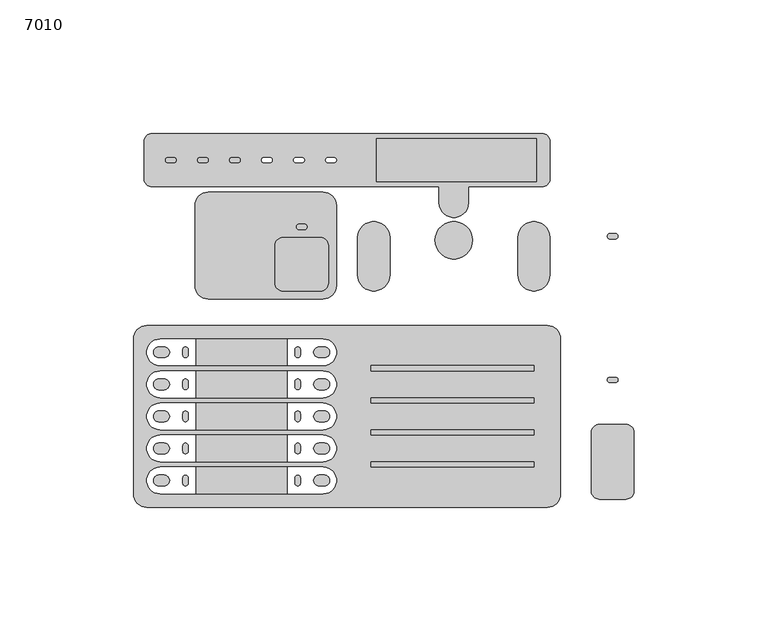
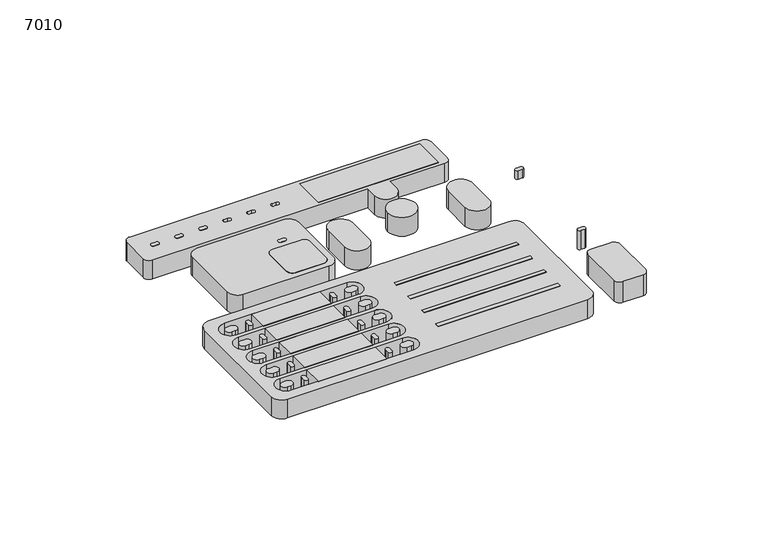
"""IFC4 building model written with IfcOpenShell, lengths in millimetres: switching device geometry, Панель управления SonarSRM : 7010."""

from ifc_helpers import new_model, si_unit, point, frame, frame_2d, origin, origin_with_axes, place, context, project, spatial, polyline, circle_curve, trimmed, segment, composite_curve, outline, extrude, source, transform, mapped, element, save


def switching_device_7010_aad6ad83(model_context):
    return source(origin(), model_context, "Body", "SweptSolid", [
        extrude(outline(polyline([(-38.0, -9.0), (-38.0, -19.0), (-72.0, -19.0), (-72.0, -9.0), (-38.0, -9.0)])), origin_with_axes(), (0.0, 0.0, 1.0), 10.0),
        extrude(outline(polyline([(-38.0, -21.0), (-38.0, -31.0), (-72.0, -31.0), (-72.0, -21.0), (-38.0, -21.0)])), origin_with_axes(), (0.0, 0.0, 1.0), 10.0),
        extrude(outline(polyline([(-38.0, -33.0), (-38.0, -43.0), (-72.0, -43.0), (-72.0, -33.0), (-38.0, -33.0)])), origin_with_axes(), (0.0, 0.0, 1.0), 10.0),
        extrude(outline(polyline([(-38.0, -45.0), (-38.0, -55.0), (-72.0, -55.0), (-72.0, -45.0), (-38.0, -45.0)])), origin_with_axes(), (0.0, 0.0, 1.0), 10.0),
        extrude(outline(polyline([(-38.0, -57.0), (-38.0, -67.0), (-72.0, -67.0), (-72.0, -57.0), (-38.0, -57.0)])), origin_with_axes(), (0.0, 0.0, 1.0), 10.0),
        extrude(outline(composite_curve([segment(polyline([(-84.0, -16.0), (-86.0, -16.0)]), True, "CONTINUOUS"), segment(trimmed(circle_curve(frame_2d((-86.0, -14.0)), 2.0), [point((-86.0, -16.0))], [point((-86.0, -12.0))], False, "CARTESIAN"), True, "CONTINUOUS"), segment(polyline([(-86.0, -12.0), (-84.0, -12.0)]), True, "CONTINUOUS"), segment(trimmed(circle_curve(frame_2d((-84.0, -14.0)), 2.0), [point((-84.0, -12.0))], [point((-84.0, -16.0))], False, "CARTESIAN"), True, "CONTINUOUS")], self_intersect=False)), origin_with_axes(), (0.0, 0.0, 1.0), 10.0),
        extrude(outline(composite_curve([segment(trimmed(circle_curve(frame_2d((-76.0, -13.0)), 1.0), [point((-77.0, -13.0))], [point((-75.0, -13.0))], False, "CARTESIAN"), True, "CONTINUOUS"), segment(polyline([(-75.0, -13.0), (-75.0, -15.0)]), True, "CONTINUOUS"), segment(trimmed(circle_curve(frame_2d((-76.0, -15.0)), 1.0), [point((-75.0, -15.0))], [point((-77.0, -15.0))], False, "CARTESIAN"), True, "CONTINUOUS"), segment(polyline([(-77.0, -15.0), (-77.0, -13.0)]), True, "CONTINUOUS")], self_intersect=False)), origin_with_axes(), (0.0, 0.0, 1.0), 10.0),
        extrude(outline(composite_curve([segment(polyline([(-84.0, -28.0), (-86.0, -28.0)]), True, "CONTINUOUS"), segment(trimmed(circle_curve(frame_2d((-86.0, -26.0)), 2.0), [point((-86.0, -28.0))], [point((-86.0, -24.0))], False, "CARTESIAN"), True, "CONTINUOUS"), segment(polyline([(-86.0, -24.0), (-84.0, -24.0)]), True, "CONTINUOUS"), segment(trimmed(circle_curve(frame_2d((-84.0, -26.0)), 2.0), [point((-84.0, -24.0))], [point((-84.0, -28.0))], False, "CARTESIAN"), True, "CONTINUOUS")], self_intersect=False)), origin_with_axes(), (0.0, 0.0, 1.0), 10.0),
        extrude(outline(composite_curve([segment(trimmed(circle_curve(frame_2d((-76.0, -25.0)), 1.0), [point((-77.0, -25.0))], [point((-75.0, -25.0))], False, "CARTESIAN"), True, "CONTINUOUS"), segment(polyline([(-75.0, -25.0), (-75.0, -27.0)]), True, "CONTINUOUS"), segment(trimmed(circle_curve(frame_2d((-76.0, -27.0)), 1.0), [point((-75.0, -27.0))], [point((-77.0, -27.0))], False, "CARTESIAN"), True, "CONTINUOUS"), segment(polyline([(-77.0, -27.0), (-77.0, -25.0)]), True, "CONTINUOUS")], self_intersect=False)), origin_with_axes(), (0.0, 0.0, 1.0), 10.0),
        extrude(outline(composite_curve([segment(polyline([(-84.0, -40.0), (-86.0, -40.0)]), True, "CONTINUOUS"), segment(trimmed(circle_curve(frame_2d((-86.0, -38.0)), 2.0), [point((-86.0, -40.0))], [point((-86.0, -36.0))], False, "CARTESIAN"), True, "CONTINUOUS"), segment(polyline([(-86.0, -36.0), (-84.0, -36.0)]), True, "CONTINUOUS"), segment(trimmed(circle_curve(frame_2d((-84.0, -38.0)), 2.0), [point((-84.0, -36.0))], [point((-84.0, -40.0))], False, "CARTESIAN"), True, "CONTINUOUS")], self_intersect=False)), origin_with_axes(), (0.0, 0.0, 1.0), 10.0),
        extrude(outline(composite_curve([segment(trimmed(circle_curve(frame_2d((-76.0, -37.0)), 1.0), [point((-77.0, -37.0))], [point((-75.0, -37.0))], False, "CARTESIAN"), True, "CONTINUOUS"), segment(polyline([(-75.0, -37.0), (-75.0, -39.0)]), True, "CONTINUOUS"), segment(trimmed(circle_curve(frame_2d((-76.0, -39.0)), 1.0), [point((-75.0, -39.0))], [point((-77.0, -39.0))], False, "CARTESIAN"), True, "CONTINUOUS"), segment(polyline([(-77.0, -39.0), (-77.0, -37.0)]), True, "CONTINUOUS")], self_intersect=False)), origin_with_axes(), (0.0, 0.0, 1.0), 10.0),
        extrude(outline(composite_curve([segment(polyline([(-84.0, -52.0), (-86.0, -52.0)]), True, "CONTINUOUS"), segment(trimmed(circle_curve(frame_2d((-86.0, -50.0)), 2.0), [point((-86.0, -52.0))], [point((-86.0, -48.0))], False, "CARTESIAN"), True, "CONTINUOUS"), segment(polyline([(-86.0, -48.0), (-84.0, -48.0)]), True, "CONTINUOUS"), segment(trimmed(circle_curve(frame_2d((-84.0, -50.0)), 2.0), [point((-84.0, -48.0))], [point((-84.0, -52.0))], False, "CARTESIAN"), True, "CONTINUOUS")], self_intersect=False)), origin_with_axes(), (0.0, 0.0, 1.0), 10.0),
        extrude(outline(composite_curve([segment(trimmed(circle_curve(frame_2d((-76.0, -49.0)), 1.0), [point((-77.0, -49.0))], [point((-75.0, -49.0))], False, "CARTESIAN"), True, "CONTINUOUS"), segment(polyline([(-75.0, -49.0), (-75.0, -51.0)]), True, "CONTINUOUS"), segment(trimmed(circle_curve(frame_2d((-76.0, -51.0)), 1.0), [point((-75.0, -51.0))], [point((-77.0, -51.0))], False, "CARTESIAN"), True, "CONTINUOUS"), segment(polyline([(-77.0, -51.0), (-77.0, -49.0)]), True, "CONTINUOUS")], self_intersect=False)), origin_with_axes(), (0.0, 0.0, 1.0), 10.0),
        extrude(outline(composite_curve([segment(polyline([(-84.0, -64.0), (-86.0, -64.0)]), True, "CONTINUOUS"), segment(trimmed(circle_curve(frame_2d((-86.0, -62.0)), 2.0), [point((-86.0, -64.0))], [point((-86.0, -60.0))], False, "CARTESIAN"), True, "CONTINUOUS"), segment(polyline([(-86.0, -60.0), (-84.0, -60.0)]), True, "CONTINUOUS"), segment(trimmed(circle_curve(frame_2d((-84.0, -62.0)), 2.0), [point((-84.0, -60.0))], [point((-84.0, -64.0))], False, "CARTESIAN"), True, "CONTINUOUS")], self_intersect=False)), origin_with_axes(), (0.0, 0.0, 1.0), 10.0),
        extrude(outline(composite_curve([segment(trimmed(circle_curve(frame_2d((-76.0, -61.0)), 1.0), [point((-77.0, -61.0))], [point((-75.0, -61.0))], False, "CARTESIAN"), True, "CONTINUOUS"), segment(polyline([(-75.0, -61.0), (-75.0, -63.0)]), True, "CONTINUOUS"), segment(trimmed(circle_curve(frame_2d((-76.0, -63.0)), 1.0), [point((-75.0, -63.0))], [point((-77.0, -63.0))], False, "CARTESIAN"), True, "CONTINUOUS"), segment(polyline([(-77.0, -63.0), (-77.0, -61.0)]), True, "CONTINUOUS")], self_intersect=False)), origin_with_axes(), (0.0, 0.0, 1.0), 10.0),
        extrude(outline(composite_curve([segment(trimmed(circle_curve(frame_2d((-26.0, -14.0)), 2.0), [point((-26.0, -16.0))], [point((-26.0, -12.0))], False, "CARTESIAN"), True, "CONTINUOUS"), segment(polyline([(-26.0, -12.0), (-24.0, -12.0)]), True, "CONTINUOUS"), segment(trimmed(circle_curve(frame_2d((-24.0, -14.0)), 2.0), [point((-24.0, -12.0))], [point((-24.0, -16.0))], False, "CARTESIAN"), True, "CONTINUOUS"), segment(polyline([(-24.0, -16.0), (-26.0, -16.0)]), True, "CONTINUOUS")], self_intersect=False)), origin_with_axes(), (0.0, 0.0, 1.0), 10.0),
        extrude(outline(composite_curve([segment(polyline([(-33.0, -13.0), (-33.0, -15.0)]), True, "CONTINUOUS"), segment(trimmed(circle_curve(frame_2d((-34.0, -15.0)), 1.0), [point((-33.0, -15.0))], [point((-35.0, -15.0))], False, "CARTESIAN"), True, "CONTINUOUS"), segment(polyline([(-35.0, -15.0), (-35.0, -13.0)]), True, "CONTINUOUS"), segment(trimmed(circle_curve(frame_2d((-34.0, -13.0)), 1.0), [point((-35.0, -13.0))], [point((-33.0, -13.0))], False, "CARTESIAN"), True, "CONTINUOUS")], self_intersect=False)), origin_with_axes(), (0.0, 0.0, 1.0), 10.0),
        extrude(outline(composite_curve([segment(trimmed(circle_curve(frame_2d((-26.0, -26.0)), 2.0), [point((-26.0, -28.0))], [point((-26.0, -24.0))], False, "CARTESIAN"), True, "CONTINUOUS"), segment(polyline([(-26.0, -24.0), (-24.0, -24.0)]), True, "CONTINUOUS"), segment(trimmed(circle_curve(frame_2d((-24.0, -26.0)), 2.0), [point((-24.0, -24.0))], [point((-24.0, -28.0))], False, "CARTESIAN"), True, "CONTINUOUS"), segment(polyline([(-24.0, -28.0), (-26.0, -28.0)]), True, "CONTINUOUS")], self_intersect=False)), origin_with_axes(), (0.0, 0.0, 1.0), 10.0),
        extrude(outline(composite_curve([segment(polyline([(-33.0, -25.0), (-33.0, -27.0)]), True, "CONTINUOUS"), segment(trimmed(circle_curve(frame_2d((-34.0, -27.0)), 1.0), [point((-33.0, -27.0))], [point((-35.0, -27.0))], False, "CARTESIAN"), True, "CONTINUOUS"), segment(polyline([(-35.0, -27.0), (-35.0, -25.0)]), True, "CONTINUOUS"), segment(trimmed(circle_curve(frame_2d((-34.0, -25.0)), 1.0), [point((-35.0, -25.0))], [point((-33.0, -25.0))], False, "CARTESIAN"), True, "CONTINUOUS")], self_intersect=False)), origin_with_axes(), (0.0, 0.0, 1.0), 10.0),
        extrude(outline(composite_curve([segment(trimmed(circle_curve(frame_2d((-26.0, -38.0)), 2.0), [point((-26.0, -40.0))], [point((-26.0, -36.0))], False, "CARTESIAN"), True, "CONTINUOUS"), segment(polyline([(-26.0, -36.0), (-24.0, -36.0)]), True, "CONTINUOUS"), segment(trimmed(circle_curve(frame_2d((-24.0, -38.0)), 2.0), [point((-24.0, -36.0))], [point((-24.0, -40.0))], False, "CARTESIAN"), True, "CONTINUOUS"), segment(polyline([(-24.0, -40.0), (-26.0, -40.0)]), True, "CONTINUOUS")], self_intersect=False)), origin_with_axes(), (0.0, 0.0, 1.0), 10.0),
        extrude(outline(composite_curve([segment(polyline([(-33.0, -37.0), (-33.0, -39.0)]), True, "CONTINUOUS"), segment(trimmed(circle_curve(frame_2d((-34.0, -39.0)), 1.0), [point((-33.0, -39.0))], [point((-35.0, -39.0))], False, "CARTESIAN"), True, "CONTINUOUS"), segment(polyline([(-35.0, -39.0), (-35.0, -37.0)]), True, "CONTINUOUS"), segment(trimmed(circle_curve(frame_2d((-34.0, -37.0)), 1.0), [point((-35.0, -37.0))], [point((-33.0, -37.0))], False, "CARTESIAN"), True, "CONTINUOUS")], self_intersect=False)), origin_with_axes(), (0.0, 0.0, 1.0), 10.0),
        extrude(outline(composite_curve([segment(trimmed(circle_curve(frame_2d((-26.0, -50.0)), 2.0), [point((-26.0, -52.0))], [point((-26.0, -48.0))], False, "CARTESIAN"), True, "CONTINUOUS"), segment(polyline([(-26.0, -48.0), (-24.0, -48.0)]), True, "CONTINUOUS"), segment(trimmed(circle_curve(frame_2d((-24.0, -50.0)), 2.0), [point((-24.0, -48.0))], [point((-24.0, -52.0))], False, "CARTESIAN"), True, "CONTINUOUS"), segment(polyline([(-24.0, -52.0), (-26.0, -52.0)]), True, "CONTINUOUS")], self_intersect=False)), origin_with_axes(), (0.0, 0.0, 1.0), 10.0),
        extrude(outline(composite_curve([segment(polyline([(-33.0, -49.0), (-33.0, -51.0)]), True, "CONTINUOUS"), segment(trimmed(circle_curve(frame_2d((-34.0, -51.0)), 1.0), [point((-33.0, -51.0))], [point((-35.0, -51.0))], False, "CARTESIAN"), True, "CONTINUOUS"), segment(polyline([(-35.0, -51.0), (-35.0, -49.0)]), True, "CONTINUOUS"), segment(trimmed(circle_curve(frame_2d((-34.0, -49.0)), 1.0), [point((-35.0, -49.0))], [point((-33.0, -49.0))], False, "CARTESIAN"), True, "CONTINUOUS")], self_intersect=False)), origin_with_axes(), (0.0, 0.0, 1.0), 10.0),
        extrude(outline(composite_curve([segment(trimmed(circle_curve(frame_2d((-26.0, -62.0)), 2.0), [point((-26.0, -64.0))], [point((-26.0, -60.0))], False, "CARTESIAN"), True, "CONTINUOUS"), segment(polyline([(-26.0, -60.0), (-24.0, -60.0)]), True, "CONTINUOUS"), segment(trimmed(circle_curve(frame_2d((-24.0, -62.0)), 2.0), [point((-24.0, -60.0))], [point((-24.0, -64.0))], False, "CARTESIAN"), True, "CONTINUOUS"), segment(polyline([(-24.0, -64.0), (-26.0, -64.0)]), True, "CONTINUOUS")], self_intersect=False)), origin_with_axes(), (0.0, 0.0, 1.0), 10.0),
        extrude(outline(composite_curve([segment(polyline([(-33.0, -61.0), (-33.0, -63.0)]), True, "CONTINUOUS"), segment(trimmed(circle_curve(frame_2d((-34.0, -63.0)), 1.0), [point((-33.0, -63.0))], [point((-35.0, -63.0))], False, "CARTESIAN"), True, "CONTINUOUS"), segment(polyline([(-35.0, -63.0), (-35.0, -61.0)]), True, "CONTINUOUS"), segment(trimmed(circle_curve(frame_2d((-34.0, -61.0)), 1.0), [point((-35.0, -61.0))], [point((-33.0, -61.0))], False, "CARTESIAN"), True, "CONTINUOUS")], self_intersect=False)), origin_with_axes(), (0.0, 0.0, 1.0), 10.0),
        extrude(outline(polyline([(-6.5, -19.0), (54.5, -19.0), (54.5, -21.0), (-6.5, -21.0), (-6.5, -19.0)])), origin_with_axes(), (0.0, 0.0, 1.0), 10.0),
        extrude(outline(polyline([(-6.5, -31.0), (54.5, -31.0), (54.5, -33.0), (-6.5, -33.0), (-6.5, -31.0)])), origin_with_axes(), (0.0, 0.0, 1.0), 10.0),
        extrude(outline(polyline([(-6.5, -43.0), (54.5, -43.0), (54.5, -45.0), (-6.5, -45.0), (-6.5, -43.0)])), origin_with_axes(), (0.0, 0.0, 1.0), 10.0),
        extrude(outline(polyline([(-6.5, -55.0), (54.5, -55.0), (54.5, -57.0), (-6.5, -57.0), (-6.5, -55.0)])), origin_with_axes(), (0.0, 0.0, 1.0), 10.0),
        extrude(outline(composite_curve([segment(trimmed(circle_curve(frame_2d((59.5, -9.0)), 5.0), [point((59.5, -4.0))], [point((64.5, -9.0))], False, "CARTESIAN"), True, "CONTINUOUS"), segment(polyline([(64.5, -9.0), (64.5, -67.0)]), True, "CONTINUOUS"), segment(trimmed(circle_curve(frame_2d((59.5, -67.0)), 5.0), [point((64.5, -67.0))], [point((59.5, -72.0))], False, "CARTESIAN"), True, "CONTINUOUS"), segment(polyline([(59.5, -72.0), (-90.5, -72.0)]), True, "CONTINUOUS"), segment(trimmed(circle_curve(frame_2d((-90.5, -67.0)), 5.0), [point((-90.5, -72.0))], [point((-95.5, -67.0))], False, "CARTESIAN"), True, "CONTINUOUS"), segment(polyline([(-95.5, -67.0), (-95.5, -9.0)]), True, "CONTINUOUS"), segment(trimmed(circle_curve(frame_2d((-90.5, -9.0)), 5.0), [point((-95.5, -9.0))], [point((-90.5, -4.0))], False, "CARTESIAN"), True, "CONTINUOUS"), segment(polyline([(-90.5, -4.0), (59.5, -4.0)]), True, "CONTINUOUS")], self_intersect=False), holes=[composite_curve([segment(trimmed(circle_curve(frame_2d((-24.5, -62.0)), 5.0), [point((-24.5, -67.0))], [point((-24.5, -57.0))], True, "CARTESIAN"), True, "CONTINUOUS"), segment(polyline([(-24.5, -57.0), (-85.5, -57.0)]), True, "CONTINUOUS"), segment(trimmed(circle_curve(frame_2d((-85.5, -62.0)), 5.0), [point((-85.5, -57.0))], [point((-85.5, -67.0))], True, "CARTESIAN"), True, "CONTINUOUS"), segment(polyline([(-85.5, -67.0), (-24.5, -67.0)]), True, "CONTINUOUS")], self_intersect=False), composite_curve([segment(trimmed(circle_curve(frame_2d((-24.5, -50.0)), 5.0), [point((-24.5, -55.0))], [point((-24.5, -45.0))], True, "CARTESIAN"), True, "CONTINUOUS"), segment(polyline([(-24.5, -45.0), (-85.5, -45.0)]), True, "CONTINUOUS"), segment(trimmed(circle_curve(frame_2d((-85.5, -50.0)), 5.0), [point((-85.5, -45.0))], [point((-85.5, -55.0))], True, "CARTESIAN"), True, "CONTINUOUS"), segment(polyline([(-85.5, -55.0), (-24.5, -55.0)]), True, "CONTINUOUS")], self_intersect=False), composite_curve([segment(trimmed(circle_curve(frame_2d((-24.5, -38.0)), 5.0), [point((-24.5, -43.0))], [point((-24.5, -33.0))], True, "CARTESIAN"), True, "CONTINUOUS"), segment(polyline([(-24.5, -33.0), (-85.5, -33.0)]), True, "CONTINUOUS"), segment(trimmed(circle_curve(frame_2d((-85.5, -38.0)), 5.0), [point((-85.5, -33.0))], [point((-85.5, -43.0))], True, "CARTESIAN"), True, "CONTINUOUS"), segment(polyline([(-85.5, -43.0), (-24.5, -43.0)]), True, "CONTINUOUS")], self_intersect=False), composite_curve([segment(trimmed(circle_curve(frame_2d((-24.5, -26.0)), 5.0), [point((-24.5, -31.0))], [point((-24.5, -21.0))], True, "CARTESIAN"), True, "CONTINUOUS"), segment(polyline([(-24.5, -21.0), (-85.5, -21.0)]), True, "CONTINUOUS"), segment(trimmed(circle_curve(frame_2d((-85.5, -26.0)), 5.0), [point((-85.5, -21.0))], [point((-85.5, -31.0))], True, "CARTESIAN"), True, "CONTINUOUS"), segment(polyline([(-85.5, -31.0), (-24.5, -31.0)]), True, "CONTINUOUS")], self_intersect=False), composite_curve([segment(trimmed(circle_curve(frame_2d((-24.5, -14.0)), 5.0), [point((-24.5, -19.0))], [point((-24.5, -9.0))], True, "CARTESIAN"), True, "CONTINUOUS"), segment(polyline([(-24.5, -9.0), (-85.5, -9.0)]), True, "CONTINUOUS"), segment(trimmed(circle_curve(frame_2d((-85.5, -14.0)), 5.0), [point((-85.5, -9.0))], [point((-85.5, -19.0))], True, "CARTESIAN"), True, "CONTINUOUS"), segment(polyline([(-85.5, -19.0), (-24.5, -19.0)]), True, "CONTINUOUS")], self_intersect=False), polyline([(-6.5, -19.0), (-6.5, -21.0), (54.5, -21.0), (54.5, -19.0), (-6.5, -19.0)]), polyline([(-6.5, -31.0), (-6.5, -33.0), (54.5, -33.0), (54.5, -31.0), (-6.5, -31.0)]), polyline([(-6.5, -43.0), (-6.5, -45.0), (54.5, -45.0), (54.5, -43.0), (-6.5, -43.0)]), polyline([(-6.5, -55.0), (-6.5, -57.0), (54.5, -57.0), (54.5, -55.0), (-6.5, -55.0)])]), origin_with_axes(), (0.0, 0.0, 1.0), 10.0),
        extrude(outline(composite_curve([segment(trimmed(circle_curve(frame_2d((83.0, 29.5)), 1.0), [point((83.0, 28.5))], [point((83.0, 30.5))], False, "CARTESIAN"), True, "CONTINUOUS"), segment(polyline([(83.0, 30.5), (85.0, 30.5)]), True, "CONTINUOUS"), segment(trimmed(circle_curve(frame_2d((85.0, 29.5)), 1.0), [point((85.0, 30.5))], [point((85.0, 28.5))], False, "CARTESIAN"), True, "CONTINUOUS"), segment(polyline([(85.0, 28.5), (83.0, 28.5)]), True, "CONTINUOUS")], self_intersect=False)), frame((0.0, 0.0, 4.4591777), z_axis=(0.0, 0.0, 1.0), x_axis=(1.0, 0.0, 0.0)), (0.0, 0.0, 1.0), 4.5408223),
        extrude(outline(composite_curve([segment(trimmed(circle_curve(frame_2d((89.0, -44.0)), 3.0), [point((89.0, -41.0))], [point((92.0, -44.0))], False, "CARTESIAN"), True, "CONTINUOUS"), segment(polyline([(92.0, -44.0), (92.0, -66.0)]), True, "CONTINUOUS"), segment(trimmed(circle_curve(frame_2d((89.0, -66.0)), 3.0), [point((92.0, -66.0))], [point((89.0, -69.0))], False, "CARTESIAN"), True, "CONTINUOUS"), segment(polyline([(89.0, -69.0), (79.0, -69.0)]), True, "CONTINUOUS"), segment(trimmed(circle_curve(frame_2d((79.0, -66.0)), 3.0), [point((79.0, -69.0))], [point((76.0, -66.0))], False, "CARTESIAN"), True, "CONTINUOUS"), segment(polyline([(76.0, -66.0), (76.0, -44.0)]), True, "CONTINUOUS"), segment(trimmed(circle_curve(frame_2d((79.0, -44.0)), 3.0), [point((76.0, -44.0))], [point((79.0, -41.0))], False, "CARTESIAN"), True, "CONTINUOUS"), segment(polyline([(79.0, -41.0), (89.0, -41.0)]), True, "CONTINUOUS")], self_intersect=False)), origin_with_axes(), (0.0, 0.0, 1.0), 11.0),
        extrude(outline(composite_curve([segment(polyline([(-39.5, 29.0), (-25.5, 29.0)]), True, "CONTINUOUS"), segment(trimmed(circle_curve(frame_2d((-25.5, 26.0)), 3.0), [point((-25.5, 29.0))], [point((-22.5, 26.0))], False, "CARTESIAN"), True, "CONTINUOUS"), segment(polyline([(-22.5, 26.0), (-22.5, 12.0)]), True, "CONTINUOUS"), segment(trimmed(circle_curve(frame_2d((-25.5, 12.0)), 3.0), [point((-22.5, 12.0))], [point((-25.5, 9.0))], False, "CARTESIAN"), True, "CONTINUOUS"), segment(polyline([(-25.5, 9.0), (-39.5, 9.0)]), True, "CONTINUOUS"), segment(trimmed(circle_curve(frame_2d((-39.5, 12.0)), 3.0), [point((-39.5, 9.0))], [point((-42.5, 12.0))], False, "CARTESIAN"), True, "CONTINUOUS"), segment(polyline([(-42.5, 12.0), (-42.5, 26.0)]), True, "CONTINUOUS"), segment(trimmed(circle_curve(frame_2d((-39.5, 26.0)), 3.0), [point((-42.5, 26.0))], [point((-39.5, 29.0))], False, "CARTESIAN"), True, "CONTINUOUS")], self_intersect=False)), origin_with_axes(), (0.0, 0.0, 1.0), 10.0),
        extrude(outline(composite_curve([segment(polyline([(-33.5, 34.0), (-31.5, 34.0)]), True, "CONTINUOUS"), segment(trimmed(circle_curve(frame_2d((-31.5, 33.0)), 1.0), [point((-31.5, 34.0))], [point((-31.5, 32.0))], False, "CARTESIAN"), True, "CONTINUOUS"), segment(polyline([(-31.5, 32.0), (-33.5, 32.0)]), True, "CONTINUOUS"), segment(trimmed(circle_curve(frame_2d((-33.5, 33.0)), 1.0), [point((-33.5, 32.0))], [point((-33.5, 34.0))], False, "CARTESIAN"), True, "CONTINUOUS")], self_intersect=False)), origin_with_axes(), (0.0, 0.0, 1.0), 10.0),
        extrude(outline(composite_curve([segment(polyline([(-67.5, 46.0), (-24.5, 46.0)]), True, "CONTINUOUS"), segment(trimmed(circle_curve(frame_2d((-24.5, 41.0)), 5.0), [point((-24.5, 46.0))], [point((-19.5, 41.0))], False, "CARTESIAN"), True, "CONTINUOUS"), segment(polyline([(-19.5, 41.0), (-19.5, 11.0)]), True, "CONTINUOUS"), segment(trimmed(circle_curve(frame_2d((-24.5, 11.0)), 5.0), [point((-19.5, 11.0))], [point((-24.5, 6.0))], False, "CARTESIAN"), True, "CONTINUOUS"), segment(polyline([(-24.5, 6.0), (-67.5, 6.0)]), True, "CONTINUOUS"), segment(trimmed(circle_curve(frame_2d((-67.5, 11.0)), 5.0), [point((-67.5, 6.0))], [point((-72.5, 11.0))], False, "CARTESIAN"), True, "CONTINUOUS"), segment(polyline([(-72.5, 11.0), (-72.5, 41.0)]), True, "CONTINUOUS"), segment(trimmed(circle_curve(frame_2d((-67.5, 41.0)), 5.0), [point((-72.5, 41.0))], [point((-67.5, 46.0))], False, "CARTESIAN"), True, "CONTINUOUS")], self_intersect=False), holes=[composite_curve([segment(polyline([(-25.5, 29.0), (-39.5, 29.0)]), True, "CONTINUOUS"), segment(trimmed(circle_curve(frame_2d((-39.5, 26.0)), 3.0), [point((-39.5, 29.0))], [point((-42.5, 26.0))], True, "CARTESIAN"), True, "CONTINUOUS"), segment(polyline([(-42.5, 26.0), (-42.5, 12.0)]), True, "CONTINUOUS"), segment(trimmed(circle_curve(frame_2d((-39.5, 12.0)), 3.0), [point((-42.5, 12.0))], [point((-39.5, 9.0))], True, "CARTESIAN"), True, "CONTINUOUS"), segment(polyline([(-39.5, 9.0), (-25.5, 9.0)]), True, "CONTINUOUS"), segment(trimmed(circle_curve(frame_2d((-25.5, 12.0)), 3.0), [point((-25.5, 9.0))], [point((-22.5, 12.0))], True, "CARTESIAN"), True, "CONTINUOUS"), segment(polyline([(-22.5, 12.0), (-22.5, 26.0)]), True, "CONTINUOUS"), segment(trimmed(circle_curve(frame_2d((-25.5, 26.0)), 3.0), [point((-22.5, 26.0))], [point((-25.5, 29.0))], True, "CARTESIAN"), True, "CONTINUOUS")], self_intersect=False), composite_curve([segment(polyline([(-33.5, 32.0), (-31.5, 32.0)]), True, "CONTINUOUS"), segment(trimmed(circle_curve(frame_2d((-31.5, 33.0)), 1.0), [point((-31.5, 32.0))], [point((-31.5, 34.0))], True, "CARTESIAN"), True, "CONTINUOUS"), segment(polyline([(-31.5, 34.0), (-33.5, 34.0)]), True, "CONTINUOUS"), segment(trimmed(circle_curve(frame_2d((-33.5, 33.0)), 1.0), [point((-33.5, 34.0))], [point((-33.5, 32.0))], True, "CARTESIAN"), True, "CONTINUOUS")], self_intersect=False)]), origin_with_axes(), (0.0, 0.0, 1.0), 10.0),
        extrude(outline(composite_curve([segment(trimmed(circle_curve(frame_2d((-5.5, 29.0)), 6.0), [point((-11.5, 29.0))], [point((0.5, 29.0))], False, "CARTESIAN"), True, "CONTINUOUS"), segment(polyline([(0.5, 29.0), (0.5, 15.0)]), True, "CONTINUOUS"), segment(trimmed(circle_curve(frame_2d((-5.5, 15.0)), 6.0), [point((0.5, 15.0))], [point((-11.5, 15.0))], False, "CARTESIAN"), True, "CONTINUOUS"), segment(polyline([(-11.5, 15.0), (-11.5, 29.0)]), True, "CONTINUOUS")], self_intersect=False)), origin_with_axes(), (0.0, 0.0, 1.0), 10.0),
        extrude(outline(composite_curve([segment(trimmed(circle_curve(frame_2d((24.5, 28.0)), 7.0), [point((31.5, 28.0))], [point((17.5, 28.0))], False, "CARTESIAN"), True, "CONTINUOUS"), segment(trimmed(circle_curve(frame_2d((24.5, 28.0)), 7.0), [point((17.5, 28.0))], [point((31.5, 28.0))], False, "CARTESIAN"), True, "CONTINUOUS")], self_intersect=False)), origin_with_axes(), (0.0, 0.0, 1.0), 10.0),
        extrude(outline(composite_curve([segment(polyline([(48.5, 15.0), (48.5, 29.0)]), True, "CONTINUOUS"), segment(trimmed(circle_curve(frame_2d((54.5, 29.0)), 6.0), [point((48.5, 29.0))], [point((60.5, 29.0))], False, "CARTESIAN"), True, "CONTINUOUS"), segment(polyline([(60.5, 29.0), (60.5, 15.0)]), True, "CONTINUOUS"), segment(trimmed(circle_curve(frame_2d((54.5, 15.0)), 6.0), [point((60.5, 15.0))], [point((48.5, 15.0))], False, "CARTESIAN"), True, "CONTINUOUS")], self_intersect=False)), origin_with_axes(), (0.0, 0.0, 1.0), 10.0),
        extrude(outline(composite_curve([segment(polyline([(-82.5, 59.0), (-80.5, 59.0)]), True, "CONTINUOUS"), segment(trimmed(circle_curve(frame_2d((-80.5, 58.0)), 1.0), [point((-80.5, 59.0))], [point((-80.5, 57.0))], False, "CARTESIAN"), True, "CONTINUOUS"), segment(polyline([(-80.5, 57.0), (-82.5, 57.0)]), True, "CONTINUOUS"), segment(trimmed(circle_curve(frame_2d((-82.5, 58.0)), 1.0), [point((-82.5, 57.0))], [point((-82.5, 59.0))], False, "CARTESIAN"), True, "CONTINUOUS")], self_intersect=False)), origin_with_axes(), (0.0, 0.0, 1.0), 10.0),
        extrude(outline(composite_curve([segment(polyline([(-70.5, 59.0), (-68.5, 59.0)]), True, "CONTINUOUS"), segment(trimmed(circle_curve(frame_2d((-68.5, 58.0)), 1.0), [point((-68.5, 59.0))], [point((-68.5, 57.0))], False, "CARTESIAN"), True, "CONTINUOUS"), segment(polyline([(-68.5, 57.0), (-70.5, 57.0)]), True, "CONTINUOUS"), segment(trimmed(circle_curve(frame_2d((-70.5, 58.0)), 1.0), [point((-70.5, 57.0))], [point((-70.5, 59.0))], False, "CARTESIAN"), True, "CONTINUOUS")], self_intersect=False)), origin_with_axes(), (0.0, 0.0, 1.0), 10.0),
        extrude(outline(composite_curve([segment(polyline([(-58.5, 59.0), (-56.5, 59.0)]), True, "CONTINUOUS"), segment(trimmed(circle_curve(frame_2d((-56.5, 58.0)), 1.0), [point((-56.5, 59.0))], [point((-56.5, 57.0))], False, "CARTESIAN"), True, "CONTINUOUS"), segment(polyline([(-56.5, 57.0), (-58.5, 57.0)]), True, "CONTINUOUS"), segment(trimmed(circle_curve(frame_2d((-58.5, 58.0)), 1.0), [point((-58.5, 57.0))], [point((-58.5, 59.0))], False, "CARTESIAN"), True, "CONTINUOUS")], self_intersect=False)), origin_with_axes(), (0.0, 0.0, 1.0), 10.0),
        extrude(outline(composite_curve([segment(trimmed(circle_curve(frame_2d((85.0, -24.3230034)), 1.0), [point((85.0, -23.3230034))], [point((85.0, -25.3230034))], False, "CARTESIAN"), True, "CONTINUOUS"), segment(polyline([(85.0, -25.3230034), (83.0, -25.3230034)]), True, "CONTINUOUS"), segment(trimmed(circle_curve(frame_2d((83.0, -24.3230034)), 1.0), [point((83.0, -25.3230034))], [point((83.0, -23.3230034))], False, "CARTESIAN"), True, "CONTINUOUS"), segment(polyline([(83.0, -23.3230034), (85.0, -23.3230034)]), True, "CONTINUOUS")], self_intersect=False)), origin_with_axes(), (0.0, 0.0, 1.0), 10.0),
        extrude(outline(polyline([(55.5, 66.0), (55.5, 50.0), (-4.5, 50.0), (-4.5, 66.0), (55.5, 66.0)])), origin_with_axes(), (0.0, 0.0, 1.0), 10.0),
        extrude(outline(composite_curve([segment(polyline([(-88.5, 68.0), (57.5, 68.0)]), True, "CONTINUOUS"), segment(trimmed(circle_curve(frame_2d((57.5, 65.0)), 3.0), [point((57.5, 68.0))], [point((60.5, 65.0))], False, "CARTESIAN"), True, "CONTINUOUS"), segment(polyline([(60.5, 65.0), (60.5, 51.0)]), True, "CONTINUOUS"), segment(trimmed(circle_curve(frame_2d((57.5, 51.0)), 3.0), [point((60.5, 51.0))], [point((57.5, 48.0))], False, "CARTESIAN"), True, "CONTINUOUS"), segment(polyline([(57.5, 48.0), (30.0, 48.0), (30.0, 42.0)]), True, "CONTINUOUS"), segment(trimmed(circle_curve(frame_2d((24.5, 42.0)), 5.5), [point((30.0, 42.0))], [point((19.0, 42.0))], False, "CARTESIAN"), True, "CONTINUOUS"), segment(polyline([(19.0, 42.0), (19.0, 48.0), (-88.5, 48.0)]), True, "CONTINUOUS"), segment(trimmed(circle_curve(frame_2d((-88.5, 51.0)), 3.0), [point((-88.5, 48.0))], [point((-91.5, 51.0))], False, "CARTESIAN"), True, "CONTINUOUS"), segment(polyline([(-91.5, 51.0), (-91.5, 65.0)]), True, "CONTINUOUS"), segment(trimmed(circle_curve(frame_2d((-88.5, 65.0)), 3.0), [point((-91.5, 65.0))], [point((-88.5, 68.0))], False, "CARTESIAN"), True, "CONTINUOUS")], self_intersect=False), holes=[polyline([(-4.5, 66.0), (-4.5, 50.0), (55.5, 50.0), (55.5, 66.0), (-4.5, 66.0)]), composite_curve([segment(trimmed(circle_curve(frame_2d((-80.5, 58.0)), 1.0), [point((-80.5, 57.0))], [point((-80.5, 59.0))], True, "CARTESIAN"), True, "CONTINUOUS"), segment(polyline([(-80.5, 59.0), (-82.5, 59.0)]), True, "CONTINUOUS"), segment(trimmed(circle_curve(frame_2d((-82.5, 58.0)), 1.0), [point((-82.5, 59.0))], [point((-82.5, 57.0))], True, "CARTESIAN"), True, "CONTINUOUS"), segment(polyline([(-82.5, 57.0), (-80.5, 57.0)]), True, "CONTINUOUS")], self_intersect=False), composite_curve([segment(trimmed(circle_curve(frame_2d((-68.5, 58.0)), 1.0), [point((-68.5, 57.0))], [point((-68.5, 59.0))], True, "CARTESIAN"), True, "CONTINUOUS"), segment(polyline([(-68.5, 59.0), (-70.5, 59.0)]), True, "CONTINUOUS"), segment(trimmed(circle_curve(frame_2d((-70.5, 58.0)), 1.0), [point((-70.5, 59.0))], [point((-70.5, 57.0))], True, "CARTESIAN"), True, "CONTINUOUS"), segment(polyline([(-70.5, 57.0), (-68.5, 57.0)]), True, "CONTINUOUS")], self_intersect=False), composite_curve([segment(trimmed(circle_curve(frame_2d((-56.5, 58.0)), 1.0), [point((-56.5, 57.0))], [point((-56.5, 59.0))], True, "CARTESIAN"), True, "CONTINUOUS"), segment(polyline([(-56.5, 59.0), (-58.5, 59.0)]), True, "CONTINUOUS"), segment(trimmed(circle_curve(frame_2d((-58.5, 58.0)), 1.0), [point((-58.5, 59.0))], [point((-58.5, 57.0))], True, "CARTESIAN"), True, "CONTINUOUS"), segment(polyline([(-58.5, 57.0), (-56.5, 57.0)]), True, "CONTINUOUS")], self_intersect=False), composite_curve([segment(trimmed(circle_curve(frame_2d((-44.5, 58.0)), 1.0), [point((-44.5, 57.0))], [point((-44.5, 59.0))], True, "CARTESIAN"), True, "CONTINUOUS"), segment(polyline([(-44.5, 59.0), (-46.5, 59.0)]), True, "CONTINUOUS"), segment(trimmed(circle_curve(frame_2d((-46.5, 58.0)), 1.0), [point((-46.5, 59.0))], [point((-46.5, 57.0))], True, "CARTESIAN"), True, "CONTINUOUS"), segment(polyline([(-46.5, 57.0), (-44.5, 57.0)]), True, "CONTINUOUS")], self_intersect=False), composite_curve([segment(trimmed(circle_curve(frame_2d((-32.5, 58.0)), 1.0), [point((-32.5, 57.0))], [point((-32.5, 59.0))], True, "CARTESIAN"), True, "CONTINUOUS"), segment(polyline([(-32.5, 59.0), (-34.5, 59.0)]), True, "CONTINUOUS"), segment(trimmed(circle_curve(frame_2d((-34.5, 58.0)), 1.0), [point((-34.5, 59.0))], [point((-34.5, 57.0))], True, "CARTESIAN"), True, "CONTINUOUS"), segment(polyline([(-34.5, 57.0), (-32.5, 57.0)]), True, "CONTINUOUS")], self_intersect=False), composite_curve([segment(trimmed(circle_curve(frame_2d((-20.5, 58.0)), 1.0), [point((-20.5, 57.0))], [point((-20.5, 59.0))], True, "CARTESIAN"), True, "CONTINUOUS"), segment(polyline([(-20.5, 59.0), (-22.5, 59.0)]), True, "CONTINUOUS"), segment(trimmed(circle_curve(frame_2d((-22.5, 58.0)), 1.0), [point((-22.5, 59.0))], [point((-22.5, 57.0))], True, "CARTESIAN"), True, "CONTINUOUS"), segment(polyline([(-22.5, 57.0), (-20.5, 57.0)]), True, "CONTINUOUS")], self_intersect=False)]), origin_with_axes(), (0.0, 0.0, 1.0), 10.0),
    ])


if __name__ == "__main__":
    model = new_model("IFC4")
    model_context = context("Model", 3, world=origin())
    ifc_project = project(units=[si_unit("LENGTHUNIT", "METRE", prefix="MILLI")], contexts=[model_context])
    site = spatial("IfcSite", under=ifc_project)
    building = spatial("IfcBuilding", under=site)
    placement = place(None, origin())
    switching_device_7010_shape = switching_device_7010_aad6ad83(model_context)
    element("IfcSwitchingDevice", 1, ObjectType="Панель управления SonarSRM : 7010", at=placement, inside=building, context=model_context, shape_type="MappedRepresentation", body=[
        mapped(switching_device_7010_shape, transform((0.0, 0.0, 0.0), x_axis=(1.0, 0.0, 0.0), y_axis=(0.0, 1.0, 0.0), z_axis=(0.0, 0.0, 1.0))),
    ])
    save(model, "model.ifc")
